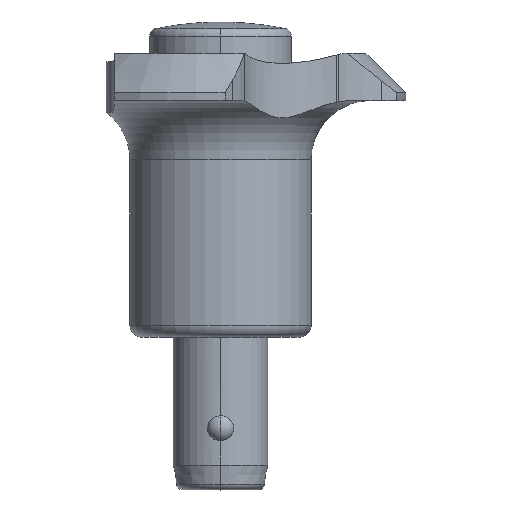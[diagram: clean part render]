
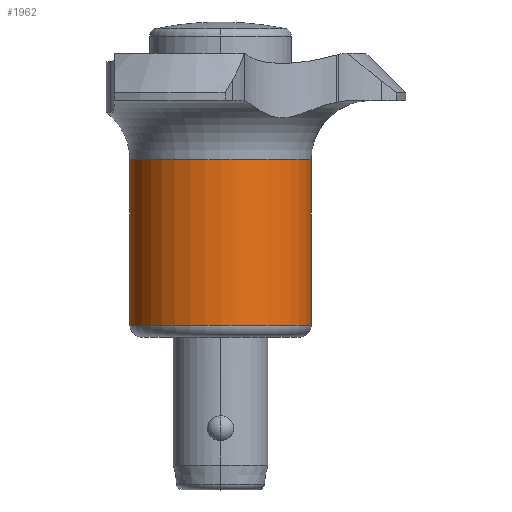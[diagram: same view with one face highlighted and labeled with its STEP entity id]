
A CAD part, top view. The second image highlights one B-rep face of the part: STEP entity #1962.
In plain terms, the highlighted cylindrical face has radius 11.5 mm (diameter 23 mm), a partial arc.
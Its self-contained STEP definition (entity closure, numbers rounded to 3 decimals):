
#13 = CARTESIAN_POINT ( 'NONE',  ( -11.5, 36., 0. ) ) ;
#59 = ORIENTED_EDGE ( 'NONE', *, *, #808, .F. ) ;
#72 = EDGE_CURVE ( 'NONE', #2450, #2795, #2140, .T. ) ;
#86 = VECTOR ( 'NONE', #881, 1000. ) ;
#100 = FACE_OUTER_BOUND ( 'NONE', #631, .T. ) ;
#118 = AXIS2_PLACEMENT_3D ( 'NONE', #1875, #2533, #1048 ) ;
#227 = CARTESIAN_POINT ( 'NONE',  ( 11.5, 36., 0. ) ) ;
#344 = CARTESIAN_POINT ( 'NONE',  ( 11.5, 1.5, 0. ) ) ;
#505 = DIRECTION ( 'NONE',  ( 0., 1., 0. ) ) ;
#586 = AXIS2_PLACEMENT_3D ( 'NONE', #2369, #1539, #2781 ) ;
#631 = EDGE_LOOP ( 'NONE', ( #2474, #2493, #59, #2172 ) ) ;
#683 = LINE ( 'NONE', #13, #2244 ) ;
#808 = EDGE_CURVE ( 'NONE', #2188, #977, #2510, .T. ) ;
#881 = DIRECTION ( 'NONE',  ( 0., 1., 0. ) ) ;
#977 = VERTEX_POINT ( 'NONE', #1839 ) ;
#1048 = DIRECTION ( 'NONE',  ( 1., 0., 0. ) ) ;
#1127 = CARTESIAN_POINT ( 'NONE',  ( -11.5, 22.5, 0. ) ) ;
#1172 = EDGE_CURVE ( 'NONE', #2450, #2188, #683, .T. ) ;
#1304 = AXIS2_PLACEMENT_3D ( 'NONE', #2276, #505, #1812 ) ;
#1539 = DIRECTION ( 'NONE',  ( 0., 1., 0. ) ) ;
#1812 = DIRECTION ( 'NONE',  ( -1., 0., 0. ) ) ;
#1839 = CARTESIAN_POINT ( 'NONE',  ( 11.5, 22.5, 0. ) ) ;
#1875 = CARTESIAN_POINT ( 'NONE',  ( 0., 1.5, 0. ) ) ;
#1962 = ADVANCED_FACE ( 'NONE', ( #100 ), #2476, .T. ) ;
#1995 = LINE ( 'NONE', #227, #86 ) ;
#2140 = CIRCLE ( 'NONE', #118, 11.5 ) ;
#2172 = ORIENTED_EDGE ( 'NONE', *, *, #1172, .F. ) ;
#2188 = VERTEX_POINT ( 'NONE', #1127 ) ;
#2244 = VECTOR ( 'NONE', #2399, 1000. ) ;
#2276 = CARTESIAN_POINT ( 'NONE',  ( 0., 36., 0. ) ) ;
#2369 = CARTESIAN_POINT ( 'NONE',  ( 0., 22.5, 0. ) ) ;
#2399 = DIRECTION ( 'NONE',  ( 0., 1., 0. ) ) ;
#2448 = CARTESIAN_POINT ( 'NONE',  ( -11.5, 1.5, 0. ) ) ;
#2450 = VERTEX_POINT ( 'NONE', #2448 ) ;
#2474 = ORIENTED_EDGE ( 'NONE', *, *, #72, .T. ) ;
#2476 = CYLINDRICAL_SURFACE ( 'NONE', #1304, 11.5 ) ;
#2493 = ORIENTED_EDGE ( 'NONE', *, *, #2628, .T. ) ;
#2510 = CIRCLE ( 'NONE', #586, 11.5 ) ;
#2533 = DIRECTION ( 'NONE',  ( 0., 1., 0. ) ) ;
#2628 = EDGE_CURVE ( 'NONE', #2795, #977, #1995, .T. ) ;
#2781 = DIRECTION ( 'NONE',  ( -1., 0., 0. ) ) ;
#2795 = VERTEX_POINT ( 'NONE', #344 ) ;
